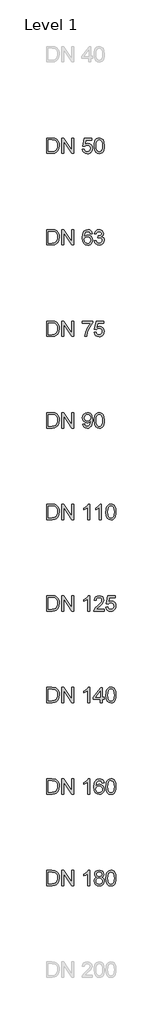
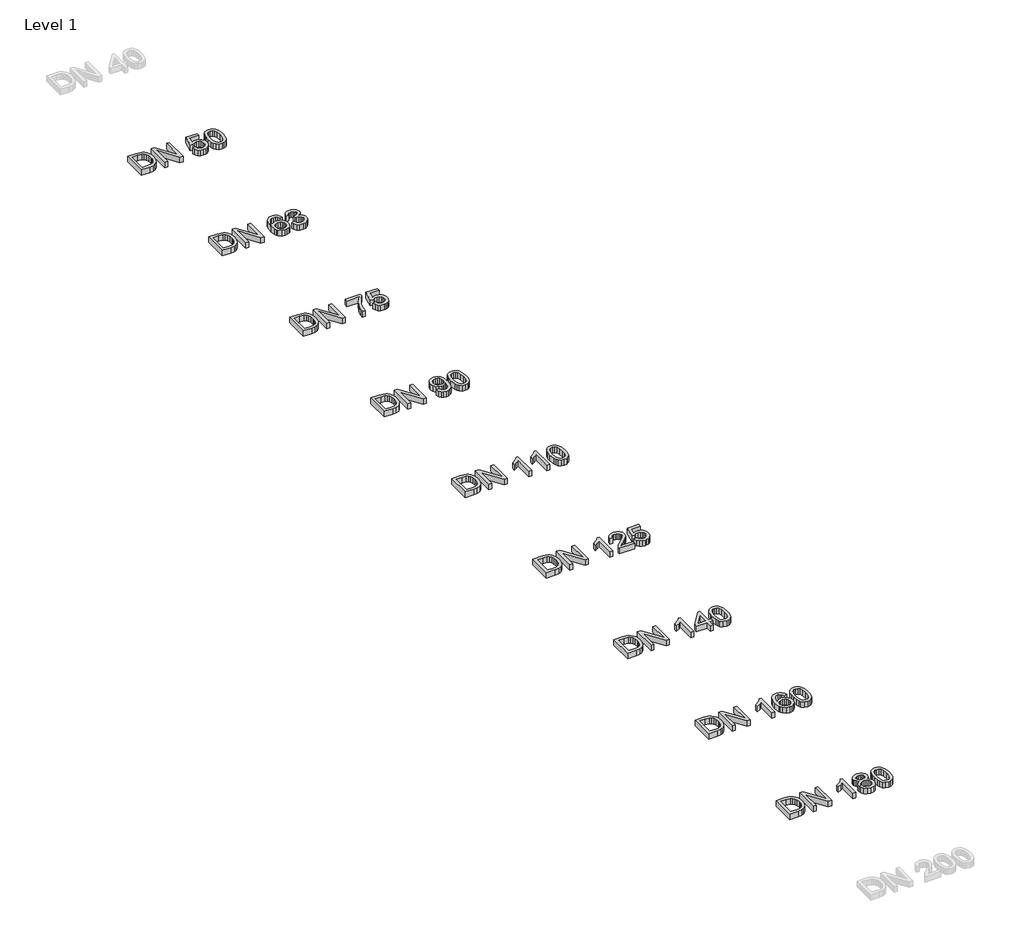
# One storey, part 10 of 17: 9 proxies.
"""IFC4 building model written with IfcOpenShell, lengths in millimetres."""

import ifcopenshell
import ifcopenshell.guid

model = None  # the IFC model being written
_history = None  # IfcOwnerHistory: only IFC2X3 demands one
_inside = {}  # id of a spatial element -> (the spatial element, [elements in it])
_under = {}  # id of a project, library or spatial element -> (it, [spatial elements below it])
_declared = {}  # id of a project -> (the project, [libraries it declares])
_typed = {}  # id of a type object -> (the type object, [elements of that type])
_made_of = {}  # id of a material, layer set ... -> (it, [elements and type objects made of it])


def new_model(schema):
    """Start an empty IFC model of exactly this schema.

    Asked for "IFC4X3", IfcOpenShell would pick the latest addendum, in which some entities
    have other attributes; the version numbers below select the first issue.
    IFC2X3 requires an IfcOwnerHistory on every rooted entity: one is made here for all.
    """
    global model, _history
    if schema == "IFC4X3":
        model = ifcopenshell.file(schema_version=(4, 3, 0, 0))
    else:
        model = ifcopenshell.file(schema=schema)
    _inside.clear()
    _under.clear()
    _declared.clear()
    _typed.clear()
    _made_of.clear()
    _history = None
    if model.schema == "IFC2X3":
        org = make("IfcOrganization", Name="unknown")
        user = make(
            "IfcPersonAndOrganization",
            ThePerson=make("IfcPerson", FamilyName="unknown"),
            TheOrganization=org,
        )
        app = make(
            "IfcApplication",
            ApplicationDeveloper=org,
            Version="unknown",
            ApplicationFullName="unknown",
            ApplicationIdentifier="unknown",
        )
        _history = make(
            "IfcOwnerHistory",
            OwningUser=user,
            OwningApplication=app,
            ChangeAction="ADDED",
            CreationDate=0,
        )
    return model


def make(cls, **values):
    """One entity of the class cls with the attributes given. An attribute that is None is left unset."""
    return model.create_entity(
        cls, **{name: value for name, value in values.items() if value is not None}
    )


def rooted(cls, **values):
    """An entity with a GlobalId (a new one), such as an element, a storey or a relation."""
    return make(cls, GlobalId=ifcopenshell.guid.new(), OwnerHistory=_history, **values)


def si_unit(unit_type, name, prefix=None):
    """IfcSIUnit, for example si_unit("LENGTHUNIT", "METRE", prefix="MILLI")."""
    return make("IfcSIUnit", UnitType=unit_type, Prefix=prefix, Name=name)


def assignment(units):
    """IfcUnitAssignment: the units of a project."""
    return None if units is None else make("IfcUnitAssignment", Units=units)


def point(xyz):
    """IfcCartesianPoint."""
    return None if xyz is None else make("IfcCartesianPoint", Coordinates=xyz)


def direction(xyz):
    """IfcDirection."""
    return None if xyz is None else make("IfcDirection", DirectionRatios=xyz)


def frame(location, z_axis=None, x_axis=None):
    """IfcAxis2Placement3D, a coordinate frame: its origin and axes. An axis left out is left unset."""
    return make(
        "IfcAxis2Placement3D",
        Location=point(location),
        Axis=direction(z_axis),
        RefDirection=direction(x_axis),
    )


def origin():
    """The frame at (0, 0, 0) with its axes left unset."""
    return frame((0.0, 0.0, 0.0))


def origin_with_axes():
    """The frame at (0, 0, 0) with the z axis (0, 0, 1) and the x axis (1, 0, 0) written out."""
    return frame((0.0, 0.0, 0.0), z_axis=(0.0, 0.0, 1.0), x_axis=(1.0, 0.0, 0.0))


def place(relative_to, where):
    """IfcLocalPlacement: puts the frame where relative to a parent placement (None: the world)."""
    return make(
        "IfcLocalPlacement", PlacementRelTo=relative_to, RelativePlacement=where
    )


def context(
    kind, dimensions, precision=None, world=None, true_north=None, identifier=None
):
    """IfcGeometricRepresentationContext, for example the 3D "Model" context."""
    return make(
        "IfcGeometricRepresentationContext",
        ContextIdentifier=identifier,
        ContextType=kind,
        CoordinateSpaceDimension=dimensions,
        Precision=precision,
        WorldCoordinateSystem=world,
        TrueNorth=true_north,
    )


def project(units=None, contexts=None):
    """IfcProject with its units and contexts."""
    return rooted(
        "IfcProject",
        Name="project",
        RepresentationContexts=contexts,
        UnitsInContext=assignment(units),
    )


def spatial(cls, under=None, at=None, **own):
    """A site, building, storey or space (cls), placed at a placement, below another one or the project."""
    s = rooted(cls, ObjectPlacement=at, **own)
    if under is not None:
        _under.setdefault(under.id(), (under, []))[1].append(s)
    return s


def polyline(points):
    """IfcPolyline through the points."""
    return make("IfcPolyline", Points=[point(p) for p in points])


def outline(outer, holes=None, kind="AREA"):
    """IfcArbitraryClosedProfileDef: a profile drawn as a closed curve; with holes, ...WithVoids."""
    if holes is None:
        return make("IfcArbitraryClosedProfileDef", ProfileType=kind, OuterCurve=outer)
    return make(
        "IfcArbitraryProfileDefWithVoids",
        ProfileType=kind,
        OuterCurve=outer,
        InnerCurves=holes,
    )


def extrude(swept, where, along, depth):
    """IfcExtrudedAreaSolid: the profile swept, set in the frame where, extruded along a direction by depth."""
    return make(
        "IfcExtrudedAreaSolid",
        SweptArea=swept,
        Position=where,
        ExtrudedDirection=direction(along),
        Depth=depth,
    )


def shape(context_of_items, identifier, shape_type, items):
    """IfcShapeRepresentation: the items that make up one representation, for example the "Body"."""
    return make(
        "IfcShapeRepresentation",
        ContextOfItems=context_of_items,
        RepresentationIdentifier=identifier,
        RepresentationType=shape_type,
        Items=items,
    )


def made_of(thing, what):
    """Note that an element or type object is made of a material, layer set ...; save() writes the relation."""
    if what is not None:
        _made_of.setdefault(what.id(), (what, []))[1].append(thing)
    return thing


def element(
    cls,
    number,
    at=None,
    inside=None,
    cuts=None,
    type_object=None,
    material=None,
    context=None,
    identifier="Body",
    shape_type=None,
    held_by="IfcProductDefinitionShape",
    body=None,
    shapes=None,
    **own,
):
    """One element of the class cls, such as IfcWall. Its Tag is "e" and its number.

    at: its placement. inside: the storey or other place that contains it. cuts: it is an
    opening in that element (IfcRelVoidsElement). A single representation is given by context,
    identifier, shape_type and body (its items); several are given by shapes. held_by: the class
    of the entity that holds the representations. save() writes the other relations.
    """
    e = rooted(cls, Tag="e%d" % number, ObjectPlacement=at, **own)
    if body is not None:
        shapes = [shape(context, identifier, shape_type, body)]
    if shapes is not None:
        e.Representation = make(held_by, Representations=shapes)
    if inside is not None:
        _inside.setdefault(inside.id(), (inside, []))[1].append(e)
    if cuts is not None:
        rooted(
            "IfcRelVoidsElement", RelatingBuildingElement=cuts, RelatedOpeningElement=e
        )
    if type_object is not None:
        _typed.setdefault(type_object.id(), (type_object, []))[1].append(e)
    return made_of(e, material)


def aggregate(whole, parts):
    """IfcRelAggregates: a whole, such as a stair, and the parts it consists of."""
    return rooted("IfcRelAggregates", RelatingObject=whole, RelatedObjects=parts)


def save(model, path):
    """Write the relations noted so far, then the file.

    IfcRelAggregates (storeys below a building ...), IfcRelContainedInSpatialStructure (elements
    in a storey), IfcRelDefinesByType, IfcRelAssociatesMaterial and IfcRelDeclares: one each for
    every whole, place, type object, material and project.
    """
    for whole, parts in _under.values():
        aggregate(whole, parts)
    for where, things in _inside.values():
        rooted(
            "IfcRelContainedInSpatialStructure",
            RelatedElements=things,
            RelatingStructure=where,
        )
    for kind, things in _typed.values():
        rooted("IfcRelDefinesByType", RelatedObjects=things, RelatingType=kind)
    for what, things in _made_of.values():
        rooted("IfcRelAssociatesMaterial", RelatedObjects=things, RelatingMaterial=what)
    for by, libraries in _declared.values():
        rooted("IfcRelDeclares", RelatingContext=by, RelatedDefinitions=libraries)
    model.write(path)


model = new_model("IFC4")

# Units and contexts
model_context = context("Model", 3, world=origin())
ifc_project = project(units=[si_unit("LENGTHUNIT", "METRE", prefix="MILLI")], contexts=[model_context])

# Site, building, storey
site = spatial("IfcSite", under=ifc_project)
building = spatial("IfcBuilding", under=site)
storey = spatial("IfcBuildingStorey", under=building, Name="Level 1", Elevation=0.0)

# Proxies
placement = place(None, origin())
element("IfcBuildingElementProxy", 1, Name="200mm Arial", ObjectType="200mm Arial", at=placement, inside=storey, context=model_context, shape_type="SweptSolid", body=[
    extrude(outline(polyline([(32539.3076926, -41313.949573), (32539.3076926, -41113.0369527), (32608.6166605, -41113.0369527), (32644.4728923, -41115.9309577), (32660.4880218, -41121.5105013), (32674.0015538, -41130.302881), (32687.8952305, -41145.606772), (32697.7912562, -41164.6385338), (32703.7141563, -41187.0302846), (32705.6884563, -41212.4141423), (32700.3419047, -41252.9547382), (32686.6076435, -41282.2136195), (32668.2625947, -41300.436041), (32644.2521631, -41310.5160077), (32611.9521239, -41313.949573), (32539.3076926, -41313.949573)]), holes=[polyline([(32564.4217702, -41288.8354954), (32608.8619152, -41288.8354954), (32641.1864798, -41285.2057264), (32659.8258342, -41274.9540815), (32668.5507689, -41264.0831685), (32675.1051998, -41250.0116822), (32679.207084, -41232.6783089), (32680.5743788, -41212.0217348), (32677.8949716, -41184.6513144), (32669.85675, -41164.4423301), (32657.9802929, -41150.5609162), (32643.7861793, -41142.1732067), (32608.1752021, -41138.1510302), (32564.4217702, -41138.1510302), (32564.4217702, -41288.8354954)])]), origin_with_axes(), (0.0, 0.0, 1.0), 50.0),
    extrude(outline(polyline([(32740.2203129, -41313.949573), (32740.2203129, -41113.0369527), (32767.100224, -41113.0369527), (32872.06922, -41272.2072292), (32872.06922, -41113.0369527), (32897.1832975, -41113.0369527), (32897.1832975, -41313.949573), (32870.3033864, -41313.949573), (32765.3343905, -41154.7302454), (32765.3343905, -41313.949573), (32740.2203129, -41313.949573)])), origin_with_axes(), (0.0, 0.0, 1.0), 50.0),
    extrude(outline(polyline([(33104.3744372, -41313.949573), (33079.2603597, -41313.949573), (33079.2603597, -41157.3789958), (33055.4706573, -41174.3260931), (33029.0322046, -41187.0057592), (33029.0322046, -41163.2651077), (33065.8449296, -41139.769711), (33079.315542, -41126.1948653), (33088.1876294, -41113.0369527), (33104.3744372, -41113.0369527), (33104.3744372, -41313.949573)])), origin_with_axes(), (0.0, 0.0, 1.0), 50.0),
    extrude(outline(polyline([(33292.7300188, -41166.4043674), (33267.6159412, -41169.5436271), (33258.1000603, -41148.5988789), (33246.7079812, -41140.7629924), (33232.9369318, -41138.1510302), (33210.2754009, -41144.2333458), (33200.8392277, -41153.8411973), (33193.1320999, -41167.066555), (33187.9265697, -41185.7733545), (33185.9951892, -41211.8255311), (33196.0690245, -41200.0717013), (33208.1416853, -41191.7882251), (33221.5387213, -41186.8770005), (33235.5856822, -41185.2399256), (33258.7867733, -41189.7158232), (33278.2599936, -41203.143516), (33291.4669572, -41223.6590686), (33295.8692784, -41249.3985455), (33293.7968765, -41267.3818437), (33287.5796708, -41284.0530295), (33277.7326961, -41298.1919608), (33264.7709871, -41308.5784958), (33249.2831551, -41314.9612484), (33231.8578113, -41317.0888326), (33203.3653508, -41311.4479754), (33180.673163, -41294.5254036), (33172.0141406, -41281.4165418), (33165.8291245, -41264.6533856), (33160.8811117, -41220.1641897), (33166.3748161, -41170.144501), (33173.2419467, -41151.0667539), (33182.8559295, -41135.9437382), (33193.276187, -41125.9220195), (33205.3580449, -41118.763649), (33234.5065616, -41113.0369527), (33256.5426932, -41116.5808825), (33274.1887662, -41127.2126722), (33286.5496012, -41144.0984558), (33292.7300188, -41166.4043674)]), holes=[polyline([(33185.9951892, -41249.0061381), (33191.8077247, -41270.7602267), (33207.2587685, -41286.554627), (33229.895774, -41291.9747551), (33246.4688579, -41289.1665892), (33259.4980119, -41280.7420915), (33267.9409036, -41267.4983397), (33270.7552009, -41250.2324114), (33267.9776918, -41233.6593275), (33259.6451647, -41221.022581), (33246.3952815, -41213.0211476), (33228.8657044, -41210.3540031), (33212.317146, -41213.0211476), (33198.4786516, -41221.022581), (33189.1160548, -41233.3527592), (33185.9951892, -41249.0061381)])]), origin_with_axes(), (0.0, 0.0, 1.0), 50.0),
    extrude(outline(polyline([(33317.8440963, -41215.1119436), (33319.6896376, -41182.9529258), (33325.2262617, -41157.3054194), (33334.3987861, -41137.7770168), (33347.1520286, -41123.9753106), (33363.5779597, -41115.7715422), (33383.7685498, -41113.0369527), (33399.2441191, -41114.6556334), (33413.1010076, -41119.5116758), (33424.6892904, -41127.4150073), (33433.3590428, -41138.1755557), (33445.1312666, -41167.9004209), (33449.6930034, -41215.1119436), (33447.8658561, -41247.0870203), (33442.3844144, -41272.6732131), (33433.2670723, -41292.2200098), (33420.5322239, -41306.0768983), (33404.0695046, -41314.335849), (33383.7685498, -41317.0888326), (33357.6734536, -41312.3063667), (33337.8568768, -41297.9589689), (33329.1012853, -41282.8298218), (33322.8472914, -41263.9789353), (33317.8440963, -41215.1119436)]), holes=[polyline([(33342.9581738, -41215.0628927), (33345.9012298, -41254.5672876), (33354.7303977, -41277.4311536), (33367.8760476, -41288.3388547), (33383.7685498, -41291.9747551), (33399.661052, -41288.326592), (33412.806702, -41277.3821026), (33421.6358699, -41254.5059739), (33424.5789258, -41215.0628927), (33421.7339717, -41176.4475459), (33413.1991094, -41153.4058703), (33400.0779849, -41141.9647402), (33383.4742442, -41138.1510302), (33367.7534203, -41141.5110191), (33355.1228051, -41151.5909857), (33345.9993317, -41176.0674012), (33342.9581738, -41215.0628927)])]), origin_with_axes(), (0.0, 0.0, 1.0), 50.0),
])
element("IfcBuildingElementProxy", 2, Name="200mm Arial", ObjectType="200mm Arial", at=placement, inside=storey, context=model_context, shape_type="SweptSolid", body=[
    extrude(outline(polyline([(32539.3076926, -32913.949573), (32539.3076926, -32713.0369527), (32608.6166605, -32713.0369527), (32644.4728923, -32715.9309577), (32660.4880218, -32721.5105013), (32674.0015538, -32730.302881), (32687.8952305, -32745.606772), (32697.7912562, -32764.6385338), (32703.7141563, -32787.0302846), (32705.6884563, -32812.4141423), (32700.3419047, -32852.9547382), (32686.6076435, -32882.2136195), (32668.2625947, -32900.436041), (32644.2521631, -32910.5160077), (32611.9521239, -32913.949573), (32539.3076926, -32913.949573)]), holes=[polyline([(32564.4217702, -32888.8354954), (32608.8619152, -32888.8354954), (32641.1864798, -32885.2057264), (32659.8258342, -32874.9540815), (32668.5507689, -32864.0831685), (32675.1051998, -32850.0116822), (32679.207084, -32832.6783089), (32680.5743788, -32812.0217348), (32677.8949716, -32784.6513144), (32669.85675, -32764.4423301), (32657.9802929, -32750.5609162), (32643.7861793, -32742.1732067), (32608.1752021, -32738.1510302), (32564.4217702, -32738.1510302), (32564.4217702, -32888.8354954)])]), origin_with_axes(), (0.0, 0.0, 1.0), 50.0),
    extrude(outline(polyline([(32740.2203129, -32913.949573), (32740.2203129, -32713.0369527), (32767.100224, -32713.0369527), (32872.06922, -32872.2072292), (32872.06922, -32713.0369527), (32897.1832975, -32713.0369527), (32897.1832975, -32913.949573), (32870.3033864, -32913.949573), (32765.3343905, -32754.7302454), (32765.3343905, -32913.949573), (32740.2203129, -32913.949573)])), origin_with_axes(), (0.0, 0.0, 1.0), 50.0),
    extrude(outline(polyline([(33010.1966465, -32860.5821582), (33035.310724, -32857.4428985), (33039.9215117, -32872.5199289), (33047.9658646, -32883.3172655), (33059.4069947, -32889.8103827), (33074.2081136, -32891.9747551), (33092.2098059, -32888.9642541), (33105.6988124, -32879.9327511), (33114.1233101, -32865.9225785), (33116.931476, -32847.9760685), (33114.3011197, -32831.0780222), (33106.4100509, -32818.1531014), (33093.1969559, -32809.9493329), (33074.6005211, -32807.2147434), (33052.5521268, -32811.5802764), (33038.4499837, -32822.9110419), (33013.3359061, -32819.7717822), (33035.310724, -32716.1762123), (33132.6277745, -32716.1762123), (33132.6277745, -32741.2902899), (33055.6178101, -32741.2902899), (33044.8756559, -32796.619742), (33062.8160345, -32785.7304349), (33081.6148045, -32782.1006659), (33105.0795444, -32786.601089), (33124.558896, -32800.1023582), (33137.6738892, -32820.6792244), (33142.0455535, -32846.4064386), (33138.1092162, -32871.5205162), (33126.3002041, -32893.0048247), (33115.8646182, -32903.5415782), (33103.6877242, -32911.0678307), (33089.769522, -32915.5835821), (33074.1100118, -32917.0888326), (33049.443524, -32913.2199403), (33029.7924941, -32901.6132634), (33016.3218817, -32883.6177025), (33010.1966465, -32860.5821582)])), origin_with_axes(), (0.0, 0.0, 1.0), 50.0),
    extrude(outline(polyline([(33164.0203714, -32815.1119436), (33165.8659127, -32782.9529258), (33171.4025367, -32757.3054194), (33180.5750612, -32737.7770168), (33193.3283037, -32723.9753106), (33209.7542347, -32715.7715422), (33229.9448249, -32713.0369527), (33245.4203942, -32714.6556334), (33259.2772827, -32719.5116758), (33270.8655655, -32727.4150073), (33279.5353179, -32738.1755557), (33291.3075417, -32767.9004209), (33295.8692784, -32815.1119436), (33294.0421312, -32847.0870203), (33288.5606895, -32872.6732131), (33279.4433474, -32892.2200098), (33266.708499, -32906.0768983), (33250.2457797, -32914.335849), (33229.9448249, -32917.0888326), (33203.8497287, -32912.3063667), (33184.0331519, -32897.9589689), (33175.2775604, -32882.8298218), (33169.0235665, -32863.9789353), (33164.0203714, -32815.1119436)]), holes=[polyline([(33189.1344489, -32815.0628927), (33192.0775049, -32854.5672876), (33200.9066728, -32877.4311536), (33214.0523227, -32888.3388547), (33229.9448249, -32891.9747551), (33245.8373271, -32888.326592), (33258.9829771, -32877.3821026), (33267.8121449, -32854.5059739), (33270.7552009, -32815.0628927), (33267.9102468, -32776.4475459), (33259.3753845, -32753.4058703), (33246.25426, -32741.9647402), (33229.6505193, -32738.1510302), (33213.9296954, -32741.5110191), (33201.2990802, -32751.5909857), (33192.1756067, -32776.0674012), (33189.1344489, -32815.0628927)])]), origin_with_axes(), (0.0, 0.0, 1.0), 50.0),
])
element("IfcBuildingElementProxy", 3, Name="200mm Arial", ObjectType="200mm Arial", at=placement, inside=storey, context=model_context, shape_type="SweptSolid", body=[
    extrude(outline(polyline([(32539.3076926, -34113.949573), (32539.3076926, -33913.0369527), (32608.6166605, -33913.0369527), (32644.4728923, -33915.9309577), (32660.4880218, -33921.5105013), (32674.0015538, -33930.302881), (32687.8952305, -33945.606772), (32697.7912562, -33964.6385338), (32703.7141563, -33987.0302846), (32705.6884563, -34012.4141423), (32700.3419047, -34052.9547382), (32686.6076435, -34082.2136195), (32668.2625947, -34100.436041), (32644.2521631, -34110.5160077), (32611.9521239, -34113.949573), (32539.3076926, -34113.949573)]), holes=[polyline([(32564.4217702, -34088.8354954), (32608.8619152, -34088.8354954), (32641.1864798, -34085.2057264), (32659.8258342, -34074.9540815), (32668.5507689, -34064.0831685), (32675.1051998, -34050.0116822), (32679.207084, -34032.6783089), (32680.5743788, -34012.0217348), (32677.8949716, -33984.6513144), (32669.85675, -33964.4423301), (32657.9802929, -33950.5609162), (32643.7861793, -33942.1732067), (32608.1752021, -33938.1510302), (32564.4217702, -33938.1510302), (32564.4217702, -34088.8354954)])]), origin_with_axes(), (0.0, 0.0, 1.0), 50.0),
    extrude(outline(polyline([(32740.2203129, -34113.949573), (32740.2203129, -33913.0369527), (32767.100224, -33913.0369527), (32872.06922, -34072.2072292), (32872.06922, -33913.0369527), (32897.1832975, -33913.0369527), (32897.1832975, -34113.949573), (32870.3033864, -34113.949573), (32765.3343905, -33954.7302454), (32765.3343905, -34113.949573), (32740.2203129, -34113.949573)])), origin_with_axes(), (0.0, 0.0, 1.0), 50.0),
    extrude(outline(polyline([(33138.9062938, -33966.4043674), (33113.7922163, -33969.5436271), (33104.2763354, -33948.5988789), (33092.8842562, -33940.7629924), (33079.1132069, -33938.1510302), (33056.451676, -33944.2333458), (33047.0155028, -33953.8411973), (33039.308375, -33967.066555), (33034.1028448, -33985.7733545), (33032.1714643, -34011.8255311), (33042.2452996, -34000.0717013), (33054.3179604, -33991.7882251), (33067.7149964, -33986.8770005), (33081.7619573, -33985.2399256), (33104.9630484, -33989.7158232), (33124.4362687, -34003.143516), (33137.6432323, -34023.6590686), (33142.0455535, -34049.3985455), (33139.9731516, -34067.3818437), (33133.7559459, -34084.0530295), (33123.9089712, -34098.1919608), (33110.9472622, -34108.5784958), (33095.4594302, -34114.9612484), (33078.0340864, -34117.0888326), (33049.5416258, -34111.4479754), (33026.8494381, -34094.5254036), (33018.1904156, -34081.4165418), (33012.0053996, -34064.6533856), (33007.0573868, -34020.1641897), (33012.5510912, -33970.144501), (33019.4182218, -33951.0667539), (33029.0322046, -33935.9437382), (33039.4524621, -33925.9220195), (33051.53432, -33918.763649), (33080.6828367, -33913.0369527), (33102.7189682, -33916.5808825), (33120.3650413, -33927.2126722), (33132.7258763, -33944.0984558), (33138.9062938, -33966.4043674)]), holes=[polyline([(33032.1714643, -34049.0061381), (33037.9839998, -34070.7602267), (33053.4350436, -34086.554627), (33076.0720491, -34091.9747551), (33092.6451329, -34089.1665892), (33105.6742869, -34080.7420915), (33114.1171787, -34067.4983397), (33116.931476, -34050.2324114), (33114.1539669, -34033.6593275), (33105.8214397, -34021.022581), (33092.5715565, -34013.0211476), (33075.0419795, -34010.3540031), (33058.4934211, -34013.0211476), (33044.6549267, -34021.022581), (33035.2923299, -34033.3527592), (33032.1714643, -34049.0061381)])]), origin_with_axes(), (0.0, 0.0, 1.0), 50.0),
    extrude(outline(polyline([(33164.0203714, -34060.5821582), (33189.1344489, -34057.4428985), (33194.7569121, -34073.2250361), (33202.9913374, -34083.8813512), (33214.2423951, -34089.9514041), (33228.9147553, -34091.9747551), (33246.1316327, -34089.1911147), (33259.4244355, -34080.8401934), (33267.9225095, -34068.3812565), (33270.7552009, -34053.2735692), (33267.947035, -34038.9323028), (33259.5225373, -34027.3011004), (33246.7692948, -34019.5939726), (33230.9748945, -34017.02493), (33213.3656097, -34019.7717822), (33216.1615128, -33994.6577047), (33220.1836893, -33994.9520102), (33235.2300629, -33993.1493885), (33248.6822812, -33987.7415231), (33258.1736367, -33978.5935242), (33261.3374218, -33965.5705016), (33259.0442907, -33954.7241141), (33252.1648974, -33945.925603), (33241.6679978, -33940.0946734), (33228.5223479, -33938.1510302), (33215.3521724, -33940.1130675), (33204.5854927, -33945.9991794), (33196.7250807, -33955.809366), (33192.2737086, -33969.5436271), (33167.1596311, -33966.4043674), (33174.5540592, -33943.8532011), (33187.7119719, -33927.0164685), (33205.7136642, -33916.5318316), (33227.6394311, -33913.0369527), (33243.4277, -33914.7598667), (33257.928382, -33919.9286087), (33270.154327, -33928.0833263), (33279.1183849, -33938.7641669), (33284.6182208, -33951.0698196), (33286.4514994, -33964.0989736), (33284.7101913, -33976.2390794), (33279.4862669, -33987.2510138), (33270.8533028, -33996.6320047), (33258.8848752, -34003.87928), (33274.6056991, -34010.2313758), (33286.2552956, -34021.0471064), (33293.4657827, -34035.7378608), (33295.8692784, -34053.7150276), (33291.062287, -34078.191443), (33276.6413128, -34098.645682), (33254.8749614, -34112.478045), (33228.0318385, -34117.0888326), (33203.7516269, -34113.1524953), (33183.984101, -34101.3434833), (33170.2375771, -34083.2804773), (33164.0203714, -34060.5821582)])), origin_with_axes(), (0.0, 0.0, 1.0), 50.0),
])
element("IfcBuildingElementProxy", 4, Name="200mm Arial", ObjectType="200mm Arial", at=placement, inside=storey, context=model_context, shape_type="SweptSolid", body=[
    extrude(outline(polyline([(32539.3076926, -35313.949573), (32539.3076926, -35113.0369527), (32608.6166605, -35113.0369527), (32644.4728923, -35115.9309577), (32660.4880218, -35121.5105013), (32674.0015538, -35130.302881), (32687.8952305, -35145.606772), (32697.7912562, -35164.6385338), (32703.7141563, -35187.0302846), (32705.6884563, -35212.4141423), (32700.3419047, -35252.9547382), (32686.6076435, -35282.2136195), (32668.2625947, -35300.436041), (32644.2521631, -35310.5160077), (32611.9521239, -35313.949573), (32539.3076926, -35313.949573)]), holes=[polyline([(32564.4217702, -35288.8354954), (32608.8619152, -35288.8354954), (32641.1864798, -35285.2057264), (32659.8258342, -35274.9540815), (32668.5507689, -35264.0831685), (32675.1051998, -35250.0116822), (32679.207084, -35232.6783089), (32680.5743788, -35212.0217348), (32677.8949716, -35184.6513144), (32669.85675, -35164.4423301), (32657.9802929, -35150.5609162), (32643.7861793, -35142.1732067), (32608.1752021, -35138.1510302), (32564.4217702, -35138.1510302), (32564.4217702, -35288.8354954)])]), origin_with_axes(), (0.0, 0.0, 1.0), 50.0),
    extrude(outline(polyline([(32740.2203129, -35313.949573), (32740.2203129, -35113.0369527), (32767.100224, -35113.0369527), (32872.06922, -35272.2072292), (32872.06922, -35113.0369527), (32897.1832975, -35113.0369527), (32897.1832975, -35313.949573), (32870.3033864, -35313.949573), (32765.3343905, -35154.7302454), (32765.3343905, -35313.949573), (32740.2203129, -35313.949573)])), origin_with_axes(), (0.0, 0.0, 1.0), 50.0),
    extrude(outline(polyline([(33010.1966465, -35141.2902899), (33010.1966465, -35116.1762123), (33142.0455535, -35116.1762123), (33142.0455535, -35136.4832985), (33123.2529149, -35160.2668695), (33104.6442174, -35190.5129008), (33088.230549, -35224.4622776), (33076.0229981, -35259.3558849), (33066.7033209, -35313.949573), (33041.5892434, -35313.949573), (33044.3054388, -35288.0629432), (33051.5711082, -35257.2957457), (33063.1900479, -35224.6830068), (33078.9660541, -35193.2597531), (33097.3846793, -35164.8531317), (33116.931476, -35141.2902899), (33010.1966465, -35141.2902899)])), origin_with_axes(), (0.0, 0.0, 1.0), 50.0),
    extrude(outline(polyline([(33164.0203714, -35260.5821582), (33189.1344489, -35257.4428985), (33193.7452366, -35272.5199289), (33201.7895895, -35283.3172655), (33213.2307196, -35289.8103827), (33228.0318385, -35291.9747551), (33246.0335308, -35288.9642541), (33259.5225373, -35279.9327511), (33267.947035, -35265.9225785), (33270.7552009, -35247.9760685), (33268.1248446, -35231.0780222), (33260.2337758, -35218.1531014), (33247.0206809, -35209.9493329), (33228.424246, -35207.2147434), (33206.3758518, -35211.5802764), (33192.2737086, -35222.9110419), (33167.1596311, -35219.7717822), (33189.1344489, -35116.1762123), (33286.4514994, -35116.1762123), (33286.4514994, -35141.2902899), (33209.441535, -35141.2902899), (33198.6993808, -35196.619742), (33216.6397594, -35185.7304349), (33235.4385294, -35182.1006659), (33258.9032693, -35186.601089), (33278.3826209, -35200.1023582), (33291.4976141, -35220.6792244), (33295.8692784, -35246.4064386), (33291.9329411, -35271.5205162), (33280.123929, -35293.0048247), (33269.6883431, -35303.5415782), (33257.5114491, -35311.0678307), (33243.5932469, -35315.5835821), (33227.9337367, -35317.0888326), (33203.2672489, -35313.2199403), (33183.616219, -35301.6132634), (33170.1456066, -35283.6177025), (33164.0203714, -35260.5821582)])), origin_with_axes(), (0.0, 0.0, 1.0), 50.0),
])
element("IfcBuildingElementProxy", 5, Name="200mm Arial", ObjectType="200mm Arial", at=placement, inside=storey, context=model_context, shape_type="SweptSolid", body=[
    extrude(outline(polyline([(32539.3076926, -36513.949573), (32539.3076926, -36313.0369527), (32608.6166605, -36313.0369527), (32644.4728923, -36315.9309577), (32660.4880218, -36321.5105013), (32674.0015538, -36330.302881), (32687.8952305, -36345.606772), (32697.7912562, -36364.6385338), (32703.7141563, -36387.0302846), (32705.6884563, -36412.4141423), (32700.3419047, -36452.9547382), (32686.6076435, -36482.2136195), (32668.2625947, -36500.436041), (32644.2521631, -36510.5160077), (32611.9521239, -36513.949573), (32539.3076926, -36513.949573)]), holes=[polyline([(32564.4217702, -36488.8354954), (32608.8619152, -36488.8354954), (32641.1864798, -36485.2057264), (32659.8258342, -36474.9540815), (32668.5507689, -36464.0831685), (32675.1051998, -36450.0116822), (32679.207084, -36432.6783089), (32680.5743788, -36412.0217348), (32677.8949716, -36384.6513144), (32669.85675, -36364.4423301), (32657.9802929, -36350.5609162), (32643.7861793, -36342.1732067), (32608.1752021, -36338.1510302), (32564.4217702, -36338.1510302), (32564.4217702, -36488.8354954)])]), origin_with_axes(), (0.0, 0.0, 1.0), 50.0),
    extrude(outline(polyline([(32740.2203129, -36513.949573), (32740.2203129, -36313.0369527), (32767.100224, -36313.0369527), (32872.06922, -36472.2072292), (32872.06922, -36313.0369527), (32897.1832975, -36313.0369527), (32897.1832975, -36513.949573), (32870.3033864, -36513.949573), (32765.3343905, -36354.7302454), (32765.3343905, -36513.949573), (32740.2203129, -36513.949573)])), origin_with_axes(), (0.0, 0.0, 1.0), 50.0),
    extrude(outline(polyline([(33013.3359061, -36463.7214179), (33038.4499837, -36460.5821582), (33042.7419403, -36474.8375855), (33049.7316982, -36484.5435388), (33059.2475791, -36490.116951), (33071.1179049, -36491.9747551), (33091.4495165, -36487.1922892), (33105.2328285, -36474.4145212), (33113.4488598, -36452.5868562), (33117.0786288, -36423.4506021), (33116.931476, -36418.5455089), (33108.2310668, -36429.1650358), (33096.8451191, -36437.5772708), (33083.5952359, -36443.0587125), (33069.3030203, -36444.8858597), (33046.4023661, -36440.4222249), (33027.3399474, -36427.0313202), (33014.4824717, -36406.3440894), (33010.1966465, -36379.9914758), (33014.6909382, -36352.7682081), (33028.1738133, -36331.4310524), (33048.4257171, -36317.6354776), (33073.227095, -36313.0369527), (33091.9584199, -36315.6611776), (33109.0097504, -36323.5338523), (33123.271309, -36336.2625693), (33133.6333186, -36353.4549212), (33139.9424948, -36377.2200981), (33142.0455535, -36409.6672901), (33139.9486262, -36444.070388), (33133.657844, -36470.6621249), (33123.2283895, -36490.6442486), (33108.7154448, -36505.2185069), (33090.7444093, -36514.1212512), (33069.9406825, -36517.0888326), (33048.4686367, -36513.5878223), (33031.3375984, -36503.0847914), (33019.3569081, -36486.2419274), (33013.3359061, -36463.7214179)]), holes=[polyline([(33116.931476, -36379.4028646), (33114.221412, -36362.3821909), (33106.0912199, -36349.2855919), (33093.4728674, -36340.9346706), (33077.2983224, -36338.1510302), (33060.5229034, -36341.1492685), (33047.0829478, -36350.1439832), (33038.25378, -36363.9089012), (33035.310724, -36381.2177491), (33038.0943644, -36396.7362379), (33046.4452857, -36409.0541534), (33059.5541475, -36417.092375), (33076.6116093, -36419.7717822), (33092.6573957, -36417.092375), (33105.5761851, -36409.0541534), (33114.0926533, -36396.2825168), (33116.931476, -36379.4028646)])]), origin_with_axes(), (0.0, 0.0, 1.0), 50.0),
    extrude(outline(polyline([(33164.0203714, -36415.1119436), (33165.8659127, -36382.9529258), (33171.4025367, -36357.3054194), (33180.5750612, -36337.7770168), (33193.3283037, -36323.9753106), (33209.7542347, -36315.7715422), (33229.9448249, -36313.0369527), (33245.4203942, -36314.6556334), (33259.2772827, -36319.5116758), (33270.8655655, -36327.4150073), (33279.5353179, -36338.1755557), (33291.3075417, -36367.9004209), (33295.8692784, -36415.1119436), (33294.0421312, -36447.0870203), (33288.5606895, -36472.6732131), (33279.4433474, -36492.2200098), (33266.708499, -36506.0768983), (33250.2457797, -36514.335849), (33229.9448249, -36517.0888326), (33203.8497287, -36512.3063667), (33184.0331519, -36497.9589689), (33175.2775604, -36482.8298218), (33169.0235665, -36463.9789353), (33164.0203714, -36415.1119436)]), holes=[polyline([(33189.1344489, -36415.0628927), (33192.0775049, -36454.5672876), (33200.9066728, -36477.4311536), (33214.0523227, -36488.3388547), (33229.9448249, -36491.9747551), (33245.8373271, -36488.326592), (33258.9829771, -36477.3821026), (33267.8121449, -36454.5059739), (33270.7552009, -36415.0628927), (33267.9102468, -36376.4475459), (33259.3753845, -36353.4058703), (33246.25426, -36341.9647402), (33229.6505193, -36338.1510302), (33213.9296954, -36341.5110191), (33201.2990802, -36351.5909857), (33192.1756067, -36376.0674012), (33189.1344489, -36415.0628927)])]), origin_with_axes(), (0.0, 0.0, 1.0), 50.0),
])
element("IfcBuildingElementProxy", 6, Name="200mm Arial", ObjectType="200mm Arial", at=placement, inside=storey, context=model_context, shape_type="SweptSolid", body=[
    extrude(outline(polyline([(32539.3076926, -37713.949573), (32539.3076926, -37513.0369527), (32608.6166605, -37513.0369527), (32644.4728923, -37515.9309577), (32660.4880218, -37521.5105013), (32674.0015538, -37530.302881), (32687.8952305, -37545.606772), (32697.7912562, -37564.6385338), (32703.7141563, -37587.0302846), (32705.6884563, -37612.4141423), (32700.3419047, -37652.9547382), (32686.6076435, -37682.2136195), (32668.2625947, -37700.436041), (32644.2521631, -37710.5160077), (32611.9521239, -37713.949573), (32539.3076926, -37713.949573)]), holes=[polyline([(32564.4217702, -37688.8354954), (32608.8619152, -37688.8354954), (32641.1864798, -37685.2057264), (32659.8258342, -37674.9540815), (32668.5507689, -37664.0831685), (32675.1051998, -37650.0116822), (32679.207084, -37632.6783089), (32680.5743788, -37612.0217348), (32677.8949716, -37584.6513144), (32669.85675, -37564.4423301), (32657.9802929, -37550.5609162), (32643.7861793, -37542.1732067), (32608.1752021, -37538.1510302), (32564.4217702, -37538.1510302), (32564.4217702, -37688.8354954)])]), origin_with_axes(), (0.0, 0.0, 1.0), 50.0),
    extrude(outline(polyline([(32740.2203129, -37713.949573), (32740.2203129, -37513.0369527), (32767.100224, -37513.0369527), (32872.06922, -37672.2072292), (32872.06922, -37513.0369527), (32897.1832975, -37513.0369527), (32897.1832975, -37713.949573), (32870.3033864, -37713.949573), (32765.3343905, -37554.7302454), (32765.3343905, -37713.949573), (32740.2203129, -37713.949573)])), origin_with_axes(), (0.0, 0.0, 1.0), 50.0),
    extrude(outline(polyline([(33104.3744372, -37713.949573), (33079.2603597, -37713.949573), (33079.2603597, -37557.3789958), (33055.4706573, -37574.3260931), (33029.0322046, -37587.0057592), (33029.0322046, -37563.2651077), (33065.8449296, -37539.769711), (33079.315542, -37526.1948653), (33088.1876294, -37513.0369527), (33104.3744372, -37513.0369527), (33104.3744372, -37713.949573)])), origin_with_axes(), (0.0, 0.0, 1.0), 50.0),
    extrude(outline(polyline([(33258.1981621, -37713.949573), (33233.0840846, -37713.949573), (33233.0840846, -37557.3789958), (33209.2943822, -37574.3260931), (33182.8559295, -37587.0057592), (33182.8559295, -37563.2651077), (33219.6686545, -37539.769711), (33233.1392669, -37526.1948653), (33242.0113543, -37513.0369527), (33258.1981621, -37513.0369527), (33258.1981621, -37713.949573)])), origin_with_axes(), (0.0, 0.0, 1.0), 50.0),
    extrude(outline(polyline([(33317.8440963, -37615.1119436), (33319.6896376, -37582.9529258), (33325.2262617, -37557.3054194), (33334.3987861, -37537.7770168), (33347.1520286, -37523.9753106), (33363.5779597, -37515.7715422), (33383.7685498, -37513.0369527), (33399.2441191, -37514.6556334), (33413.1010076, -37519.5116758), (33424.6892904, -37527.4150073), (33433.3590428, -37538.1755557), (33445.1312666, -37567.9004209), (33449.6930034, -37615.1119436), (33447.8658561, -37647.0870203), (33442.3844144, -37672.6732131), (33433.2670723, -37692.2200098), (33420.5322239, -37706.0768983), (33404.0695046, -37714.335849), (33383.7685498, -37717.0888326), (33357.6734536, -37712.3063667), (33337.8568768, -37697.9589689), (33329.1012853, -37682.8298218), (33322.8472914, -37663.9789353), (33317.8440963, -37615.1119436)]), holes=[polyline([(33342.9581738, -37615.0628927), (33345.9012298, -37654.5672876), (33354.7303977, -37677.4311536), (33367.8760476, -37688.3388547), (33383.7685498, -37691.9747551), (33399.661052, -37688.326592), (33412.806702, -37677.3821026), (33421.6358699, -37654.5059739), (33424.5789258, -37615.0628927), (33421.7339717, -37576.4475459), (33413.1991094, -37553.4058703), (33400.0779849, -37541.9647402), (33383.4742442, -37538.1510302), (33367.7534203, -37541.5110191), (33355.1228051, -37551.5909857), (33345.9993317, -37576.0674012), (33342.9581738, -37615.0628927)])]), origin_with_axes(), (0.0, 0.0, 1.0), 50.0),
])
element("IfcBuildingElementProxy", 7, Name="200mm Arial", ObjectType="200mm Arial", at=placement, inside=storey, context=model_context, shape_type="SweptSolid", body=[
    extrude(outline(polyline([(32539.3076926, -38913.949573), (32539.3076926, -38713.0369527), (32608.6166605, -38713.0369527), (32644.4728923, -38715.9309577), (32660.4880218, -38721.5105013), (32674.0015538, -38730.302881), (32687.8952305, -38745.606772), (32697.7912562, -38764.6385338), (32703.7141563, -38787.0302846), (32705.6884563, -38812.4141423), (32700.3419047, -38852.9547382), (32686.6076435, -38882.2136195), (32668.2625947, -38900.436041), (32644.2521631, -38910.5160077), (32611.9521239, -38913.949573), (32539.3076926, -38913.949573)]), holes=[polyline([(32564.4217702, -38888.8354954), (32608.8619152, -38888.8354954), (32641.1864798, -38885.2057264), (32659.8258342, -38874.9540815), (32668.5507689, -38864.0831685), (32675.1051998, -38850.0116822), (32679.207084, -38832.6783089), (32680.5743788, -38812.0217348), (32677.8949716, -38784.6513144), (32669.85675, -38764.4423301), (32657.9802929, -38750.5609162), (32643.7861793, -38742.1732067), (32608.1752021, -38738.1510302), (32564.4217702, -38738.1510302), (32564.4217702, -38888.8354954)])]), origin_with_axes(), (0.0, 0.0, 1.0), 50.0),
    extrude(outline(polyline([(32740.2203129, -38913.949573), (32740.2203129, -38713.0369527), (32767.100224, -38713.0369527), (32872.06922, -38872.2072292), (32872.06922, -38713.0369527), (32897.1832975, -38713.0369527), (32897.1832975, -38913.949573), (32870.3033864, -38913.949573), (32765.3343905, -38754.7302454), (32765.3343905, -38913.949573), (32740.2203129, -38913.949573)])), origin_with_axes(), (0.0, 0.0, 1.0), 50.0),
    extrude(outline(polyline([(33104.3744372, -38913.949573), (33079.2603597, -38913.949573), (33079.2603597, -38757.3789958), (33055.4706573, -38774.3260931), (33029.0322046, -38787.0057592), (33029.0322046, -38763.2651077), (33065.8449296, -38739.769711), (33079.315542, -38726.1948653), (33088.1876294, -38713.0369527), (33104.3744372, -38713.0369527), (33104.3744372, -38913.949573)])), origin_with_axes(), (0.0, 0.0, 1.0), 50.0),
    extrude(outline(polyline([(33292.7300188, -38888.8354954), (33292.7300188, -38913.949573), (33160.8811117, -38913.949573), (33163.578913, -38896.6345937), (33178.833753, -38869.9754118), (33210.2754009, -38840.8636832), (33253.6364254, -38799.0232377), (33261.7666175, -38784.6022634), (33264.4766815, -38770.5736967), (33261.9199017, -38757.9982638), (33254.2495621, -38747.5442838), (33242.4589441, -38740.4993436), (33227.5413292, -38738.1510302), (33211.8756876, -38740.4441613), (33199.7049249, -38747.3235546), (33191.8506443, -38758.2496499), (33189.1344489, -38772.6828868), (33164.0203714, -38769.5436271), (33170.1088184, -38745.2511527), (33183.2728625, -38727.5069778), (33202.8257905, -38716.6544589), (33228.0808895, -38713.0369527), (33253.5199294, -38717.0591291), (33273.0360693, -38729.1256586), (33285.4520866, -38747.1518763), (33289.5907591, -38769.0531178), (33285.1271242, -38792.8673456), (33270.289217, -38817.4909138), (33234.3103579, -38851.9001431), (33205.4193586, -38876.0577275), (33194.0885931, -38888.8354954), (33292.7300188, -38888.8354954)])), origin_with_axes(), (0.0, 0.0, 1.0), 50.0),
    extrude(outline(polyline([(33317.8440963, -38860.5821582), (33342.9581738, -38857.4428985), (33347.5689615, -38872.5199289), (33355.6133145, -38883.3172655), (33367.0544445, -38889.8103827), (33381.8555634, -38891.9747551), (33399.8572557, -38888.9642541), (33413.3462622, -38879.9327511), (33421.7707599, -38865.9225785), (33424.5789258, -38847.9760685), (33421.9485696, -38831.0780222), (33414.0575008, -38818.1531014), (33400.8444058, -38809.9493329), (33382.2479709, -38807.2147434), (33360.1995767, -38811.5802764), (33346.0974335, -38822.9110419), (33320.983356, -38819.7717822), (33342.9581738, -38716.1762123), (33440.2752243, -38716.1762123), (33440.2752243, -38741.2902899), (33363.26526, -38741.2902899), (33352.5231057, -38796.619742), (33370.4634843, -38785.7304349), (33389.2622543, -38782.1006659), (33412.7269942, -38786.601089), (33432.2063459, -38800.1023582), (33445.321339, -38820.6792244), (33449.6930034, -38846.4064386), (33445.756666, -38871.5205162), (33433.947654, -38893.0048247), (33423.512068, -38903.5415782), (33411.335174, -38911.0678307), (33397.4169718, -38915.5835821), (33381.7574616, -38917.0888326), (33357.0909738, -38913.2199403), (33337.4399439, -38901.6132634), (33323.9693315, -38883.6177025), (33317.8440963, -38860.5821582)])), origin_with_axes(), (0.0, 0.0, 1.0), 50.0),
])
element("IfcBuildingElementProxy", 8, Name="200mm Arial", ObjectType="200mm Arial", at=placement, inside=storey, context=model_context, shape_type="SweptSolid", body=[
    extrude(outline(polyline([(32539.3076926, -40113.949573), (32539.3076926, -39913.0369527), (32608.6166605, -39913.0369527), (32644.4728923, -39915.9309577), (32660.4880218, -39921.5105013), (32674.0015538, -39930.302881), (32687.8952305, -39945.606772), (32697.7912562, -39964.6385338), (32703.7141563, -39987.0302846), (32705.6884563, -40012.4141423), (32700.3419047, -40052.9547382), (32686.6076435, -40082.2136195), (32668.2625947, -40100.436041), (32644.2521631, -40110.5160077), (32611.9521239, -40113.949573), (32539.3076926, -40113.949573)]), holes=[polyline([(32564.4217702, -40088.8354954), (32608.8619152, -40088.8354954), (32641.1864798, -40085.2057264), (32659.8258342, -40074.9540815), (32668.5507689, -40064.0831685), (32675.1051998, -40050.0116822), (32679.207084, -40032.6783089), (32680.5743788, -40012.0217348), (32677.8949716, -39984.6513144), (32669.85675, -39964.4423301), (32657.9802929, -39950.5609162), (32643.7861793, -39942.1732067), (32608.1752021, -39938.1510302), (32564.4217702, -39938.1510302), (32564.4217702, -40088.8354954)])]), origin_with_axes(), (0.0, 0.0, 1.0), 50.0),
    extrude(outline(polyline([(32740.2203129, -40113.949573), (32740.2203129, -39913.0369527), (32767.100224, -39913.0369527), (32872.06922, -40072.2072292), (32872.06922, -39913.0369527), (32897.1832975, -39913.0369527), (32897.1832975, -40113.949573), (32870.3033864, -40113.949573), (32765.3343905, -39954.7302454), (32765.3343905, -40113.949573), (32740.2203129, -40113.949573)])), origin_with_axes(), (0.0, 0.0, 1.0), 50.0),
    extrude(outline(polyline([(33104.3744372, -40113.949573), (33079.2603597, -40113.949573), (33079.2603597, -39957.3789958), (33055.4706573, -39974.3260931), (33029.0322046, -39987.0057592), (33029.0322046, -39963.2651077), (33065.8449296, -39939.769711), (33079.315542, -39926.1948653), (33088.1876294, -39913.0369527), (33104.3744372, -39913.0369527), (33104.3744372, -40113.949573)])), origin_with_axes(), (0.0, 0.0, 1.0), 50.0),
    extrude(outline(polyline([(33245.6411234, -40113.949573), (33245.6411234, -40066.8606776), (33154.6025923, -40066.8606776), (33154.6025923, -40041.7466), (33251.9196428, -39916.1762123), (33270.7552009, -39916.1762123), (33270.7552009, -40041.7466), (33295.8692784, -40041.7466), (33295.8692784, -40066.8606776), (33270.7552009, -40066.8606776), (33270.7552009, -40113.949573), (33245.6411234, -40113.949573)]), holes=[polyline([(33245.6411234, -40041.7466), (33245.6411234, -39964.1480245), (33185.5046799, -40041.7466), (33245.6411234, -40041.7466)])]), origin_with_axes(), (0.0, 0.0, 1.0), 50.0),
    extrude(outline(polyline([(33317.8440963, -40015.1119436), (33319.6896376, -39982.9529258), (33325.2262617, -39957.3054194), (33334.3987861, -39937.7770168), (33347.1520286, -39923.9753106), (33363.5779597, -39915.7715422), (33383.7685498, -39913.0369527), (33399.2441191, -39914.6556334), (33413.1010076, -39919.5116758), (33424.6892904, -39927.4150073), (33433.3590428, -39938.1755557), (33445.1312666, -39967.9004209), (33449.6930034, -40015.1119436), (33447.8658561, -40047.0870203), (33442.3844144, -40072.6732131), (33433.2670723, -40092.2200098), (33420.5322239, -40106.0768983), (33404.0695046, -40114.335849), (33383.7685498, -40117.0888326), (33357.6734536, -40112.3063667), (33337.8568768, -40097.9589689), (33329.1012853, -40082.8298218), (33322.8472914, -40063.9789353), (33317.8440963, -40015.1119436)]), holes=[polyline([(33342.9581738, -40015.0628927), (33345.9012298, -40054.5672876), (33354.7303977, -40077.4311536), (33367.8760476, -40088.3388547), (33383.7685498, -40091.9747551), (33399.661052, -40088.326592), (33412.806702, -40077.3821026), (33421.6358699, -40054.5059739), (33424.5789258, -40015.0628927), (33421.7339717, -39976.4475459), (33413.1991094, -39953.4058703), (33400.0779849, -39941.9647402), (33383.4742442, -39938.1510302), (33367.7534203, -39941.5110191), (33355.1228051, -39951.5909857), (33345.9993317, -39976.0674012), (33342.9581738, -40015.0628927)])]), origin_with_axes(), (0.0, 0.0, 1.0), 50.0),
])
element("IfcBuildingElementProxy", 9, Name="200mm Arial", ObjectType="200mm Arial", at=placement, inside=storey, context=model_context, shape_type="SweptSolid", body=[
    extrude(outline(polyline([(32539.3076926, -42513.949573), (32539.3076926, -42313.0369527), (32608.6166605, -42313.0369527), (32644.4728923, -42315.9309577), (32660.4880218, -42321.5105013), (32674.0015538, -42330.302881), (32687.8952305, -42345.606772), (32697.7912562, -42364.6385338), (32703.7141563, -42387.0302846), (32705.6884563, -42412.4141423), (32700.3419047, -42452.9547382), (32686.6076435, -42482.2136195), (32668.2625947, -42500.436041), (32644.2521631, -42510.5160077), (32611.9521239, -42513.949573), (32539.3076926, -42513.949573)]), holes=[polyline([(32564.4217702, -42488.8354954), (32608.8619152, -42488.8354954), (32641.1864798, -42485.2057264), (32659.8258342, -42474.9540815), (32668.5507689, -42464.0831685), (32675.1051998, -42450.0116822), (32679.207084, -42432.6783089), (32680.5743788, -42412.0217348), (32677.8949716, -42384.6513144), (32669.85675, -42364.4423301), (32657.9802929, -42350.5609162), (32643.7861793, -42342.1732067), (32608.1752021, -42338.1510302), (32564.4217702, -42338.1510302), (32564.4217702, -42488.8354954)])]), origin_with_axes(), (0.0, 0.0, 1.0), 50.0),
    extrude(outline(polyline([(32740.2203129, -42513.949573), (32740.2203129, -42313.0369527), (32767.100224, -42313.0369527), (32872.06922, -42472.2072292), (32872.06922, -42313.0369527), (32897.1832975, -42313.0369527), (32897.1832975, -42513.949573), (32870.3033864, -42513.949573), (32765.3343905, -42354.7302454), (32765.3343905, -42513.949573), (32740.2203129, -42513.949573)])), origin_with_axes(), (0.0, 0.0, 1.0), 50.0),
    extrude(outline(polyline([(33104.3744372, -42513.949573), (33079.2603597, -42513.949573), (33079.2603597, -42357.3789958), (33055.4706573, -42374.3260931), (33029.0322046, -42387.0057592), (33029.0322046, -42363.2651077), (33065.8449296, -42339.769711), (33079.315542, -42326.1948653), (33088.1876294, -42313.0369527), (33104.3744372, -42313.0369527), (33104.3744372, -42513.949573)])), origin_with_axes(), (0.0, 0.0, 1.0), 50.0),
    extrude(outline(polyline([(33200.6123672, -42403.2906688), (33187.1662802, -42396.6687929), (33177.7301071, -42387.6924722), (33172.1566948, -42376.5456478), (33170.2988908, -42363.4122605), (33174.3455927, -42343.7796247), (33186.4856985, -42327.5560287), (33205.3580449, -42316.6667217), (33229.6014684, -42313.0369527), (33253.9920447, -42316.7525608), (33273.1096457, -42327.8993853), (33285.4704807, -42344.3804986), (33289.5907591, -42364.0989736), (33287.7574804, -42376.8092965), (33282.2576446, -42387.7660486), (33273.0299379, -42396.687187), (33260.0130466, -42403.2906688), (33275.4702218, -42411.255314), (33286.7212795, -42422.9846183), (33293.5822787, -42437.9144959), (33295.8692784, -42455.4808612), (33291.3320672, -42479.4912927), (33277.7204333, -42499.332395), (33256.7021087, -42512.6497232), (33229.9448249, -42517.0888326), (33203.1875411, -42512.6313291), (33182.1692165, -42499.2588186), (33168.5575826, -42479.227644), (33164.0203714, -42454.7941481), (33166.3993416, -42436.5472012), (33173.5362523, -42421.5376158), (33185.0632215, -42410.2804267), (33200.6123672, -42403.2906688)]), holes=[polyline([(33195.4129683, -42364.1480245), (33197.6386544, -42375.110908), (33204.3157126, -42383.8664995), (33215.2479392, -42389.6054586), (33230.2391305, -42391.518445), (33244.8808339, -42389.6177213), (33255.6475136, -42383.9155504), (33262.2693896, -42375.4542645), (33264.4766815, -42365.276196), (33262.1958132, -42354.7118513), (33255.353208, -42345.974654), (33244.4393755, -42340.1069361), (33229.9448249, -42338.1510302), (33215.3583038, -42340.0640166), (33204.4628654, -42345.8029757), (33197.6754426, -42354.2152106), (33195.4129683, -42364.1480245)]), polyline([(33189.1344489, -42453.9112313), (33193.3283037, -42472.8203659), (33199.1347078, -42480.9321639), (33208.1662108, -42486.97156), (33230.1410286, -42491.9747551), (33247.2352787, -42489.3443988), (33260.0620976, -42481.45333), (33268.0819251, -42469.5032966), (33270.7552009, -42454.6960463), (33267.9960859, -42439.6374099), (33259.7187411, -42427.4237277), (33246.5976166, -42419.3303238), (33229.3071628, -42416.6325225), (33212.452036, -42419.2935356), (33199.7539758, -42427.2765749), (33191.7893306, -42439.2572652), (33189.1344489, -42453.9112313)])]), origin_with_axes(), (0.0, 0.0, 1.0), 50.0),
    extrude(outline(polyline([(33317.8440963, -42415.1119436), (33319.6896376, -42382.9529258), (33325.2262617, -42357.3054194), (33334.3987861, -42337.7770168), (33347.1520286, -42323.9753106), (33363.5779597, -42315.7715422), (33383.7685498, -42313.0369527), (33399.2441191, -42314.6556334), (33413.1010076, -42319.5116758), (33424.6892904, -42327.4150073), (33433.3590428, -42338.1755557), (33445.1312666, -42367.9004209), (33449.6930034, -42415.1119436), (33447.8658561, -42447.0870203), (33442.3844144, -42472.6732131), (33433.2670723, -42492.2200098), (33420.5322239, -42506.0768983), (33404.0695046, -42514.335849), (33383.7685498, -42517.0888326), (33357.6734536, -42512.3063667), (33337.8568768, -42497.9589689), (33329.1012853, -42482.8298218), (33322.8472914, -42463.9789353), (33317.8440963, -42415.1119436)]), holes=[polyline([(33342.9581738, -42415.0628927), (33345.9012298, -42454.5672876), (33354.7303977, -42477.4311536), (33367.8760476, -42488.3388547), (33383.7685498, -42491.9747551), (33399.661052, -42488.326592), (33412.806702, -42477.3821026), (33421.6358699, -42454.5059739), (33424.5789258, -42415.0628927), (33421.7339717, -42376.4475459), (33413.1991094, -42353.4058703), (33400.0779849, -42341.9647402), (33383.4742442, -42338.1510302), (33367.7534203, -42341.5110191), (33355.1228051, -42351.5909857), (33345.9993317, -42376.0674012), (33342.9581738, -42415.0628927)])]), origin_with_axes(), (0.0, 0.0, 1.0), 50.0),
])

save(model, "model.ifc")
